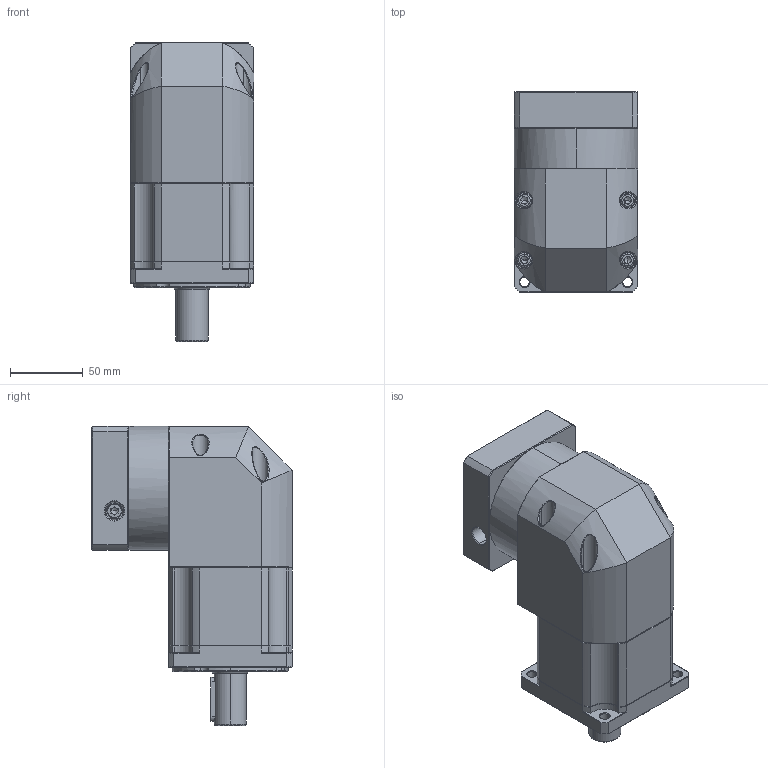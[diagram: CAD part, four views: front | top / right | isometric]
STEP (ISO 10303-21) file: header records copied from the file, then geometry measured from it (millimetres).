
FILE_DESCRIPTION (( 'STEP AP214' ), '1' );
FILE_NAME ('ZBR090-D22-L2-P2-16-80-100-M6.step', '2023-08-19T02:06:37', ( '' ), ( '' ), 'SwSTEP 2.0', 'SolidWorks 2016', '' );
FILE_SCHEMA (( 'AUTOMOTIVE_DESIGN' ));
Length unit declared in the file: millimetre
Products named in the file (1): ZBR090-D22-L2-P2-16-80-100-M6
Bounding box: 85 x 137.6 x 205.5 mm (x, y, z)
Volume: 1308529.8 mm3; surface area: 136051.6 mm2
Topology: 5 solids, 5 shells, 2406 faces, 6280 edges, 3968 vertices
Faces by surface type: plane 1155, cylinder 449, bspline 421, cone 355, torus 26
Entity records: 129536 total; most frequent: CARTESIAN_POINT 47649, ORIENTED_EDGE 12484, DIRECTION 9937, EDGE_CURVE 6242, VERTEX_POINT 3968, VECTOR 3959, LINE 3959, AXIS2_PLACEMENT_3D 2989
